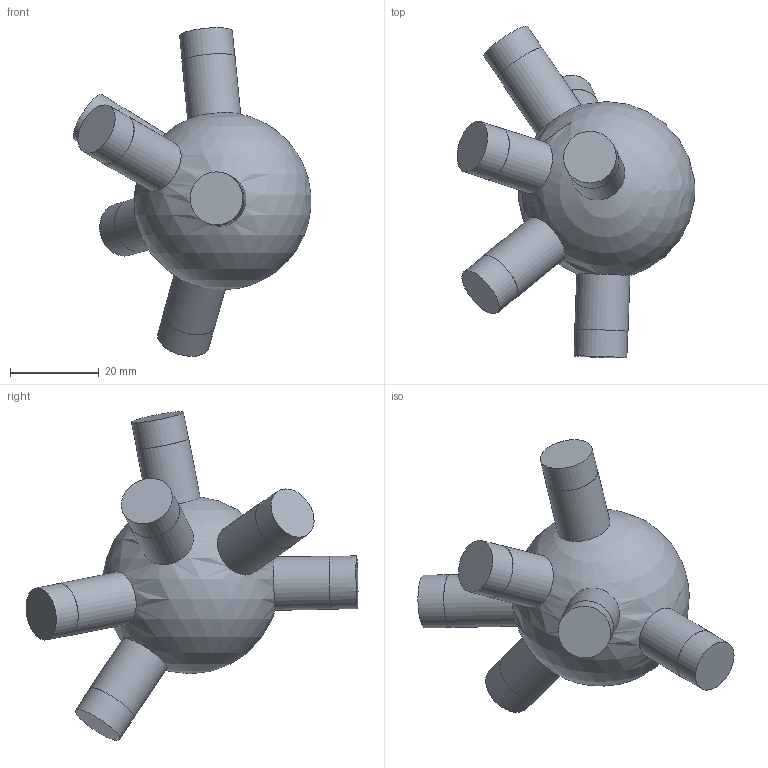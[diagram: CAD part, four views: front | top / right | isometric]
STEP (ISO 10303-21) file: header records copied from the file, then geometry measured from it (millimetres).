
FILE_DESCRIPTION(('Open CASCADE Model'),'2;1');
FILE_NAME('Open CASCADE Shape Model','2026-10-21T12:47:57',('Author'),( 'Open CASCADE'),'Open CASCADE STEP processor 7.9','Open CASCADE 7.9' ,'Unknown');
FILE_SCHEMA(('AUTOMOTIVE_DESIGN { 1 0 10303 214 1 1 1 1 }'));
Length unit declared in the file: millimetre
Products named in the file (1): Open CASCADE STEP translator 7.9 61
Bounding box: 53.59 x 74.8 x 74.05 mm (x, y, z)
Volume: 46545.7 mm3; surface area: 9471.9 mm2
Topology: 1 solids, 1 shells, 25 faces, 39 edges, 26 vertices
Faces by surface type: cylinder 12, plane 12, sphere 1
Full cylindrical faces by diameter (mm): 11.9 x6, 12 x6
Entity records: 1491 total; most frequent: CARTESIAN_POINT 593, DIRECTION 185, ORIENTED_EDGE 76, PCURVE 76, DEFINITIONAL_REPRESENTATION 76, LINE 63, VECTOR 63, AXIS2_PLACEMENT_3D 52
